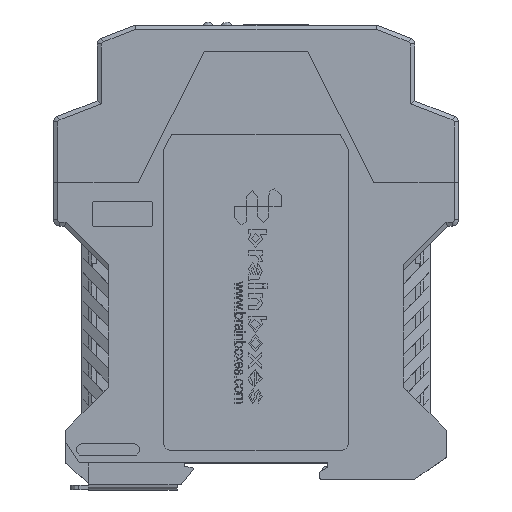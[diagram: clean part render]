
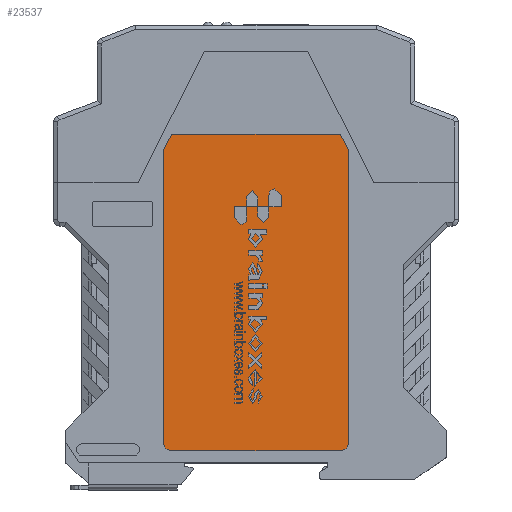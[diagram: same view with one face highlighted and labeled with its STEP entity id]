
A CAD part, top view. The second image highlights one B-rep face of the part: STEP entity #23537.
In plain terms, the highlighted planar face has unit normal (0, 0, 1).
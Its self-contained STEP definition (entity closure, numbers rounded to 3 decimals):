
#23537=ADVANCED_FACE('',(#53019),#53020,.T.);
#53019=FACE_OUTER_BOUND('',#92517,.T.);
#53020=PLANE('',#92518);
#92517=EDGE_LOOP('',(#161351,#161352,#161353,#161354,#161355,#161356,#161357,#161358));
#92518=AXIS2_PLACEMENT_3D('',#161359,#161360,#161361);
#161351=ORIENTED_EDGE('',*,*,#237632,.T.);
#161352=ORIENTED_EDGE('',*,*,#237634,.T.);
#161353=ORIENTED_EDGE('',*,*,#237635,.T.);
#161354=ORIENTED_EDGE('',*,*,#237625,.F.);
#161355=ORIENTED_EDGE('',*,*,#237636,.T.);
#161356=ORIENTED_EDGE('',*,*,#237621,.T.);
#161357=ORIENTED_EDGE('',*,*,#237637,.T.);
#161358=ORIENTED_EDGE('',*,*,#237629,.T.);
#161359=CARTESIAN_POINT('',(6.465,75.955,22.4));
#161360=DIRECTION('',(0.0,0.0,1.0));
#161361=DIRECTION('',(1.0,-0.0,0.0));
#237621=EDGE_CURVE('',#287875,#287877,#287879,.T.);
#237625=EDGE_CURVE('',#287883,#287881,#287885,.T.);
#237629=EDGE_CURVE('',#287887,#287889,#287891,.T.);
#237632=EDGE_CURVE('',#287889,#287893,#287895,.T.);
#237634=EDGE_CURVE('',#287893,#287897,#287898,.T.);
#237635=EDGE_CURVE('',#287897,#287881,#287899,.T.);
#237636=EDGE_CURVE('',#287883,#287875,#287900,.T.);
#237637=EDGE_CURVE('',#287877,#287887,#287901,.T.);
#287875=VERTEX_POINT('',#361904);
#287877=VERTEX_POINT('',#361907);
#287879=LINE('',#361910,#361911);
#287881=VERTEX_POINT('',#361913);
#287883=VERTEX_POINT('',#361916);
#287885=LINE('',#361919,#361920);
#287887=VERTEX_POINT('',#361922);
#287889=VERTEX_POINT('',#361925);
#287891=LINE('',#361928,#361929);
#287893=VERTEX_POINT('',#361931);
#287895=LINE('',#361934,#361935);
#287897=VERTEX_POINT('',#361937);
#287898=LINE('',#361938,#361939);
#287899=CIRCLE('',#361940,2.0);
#287900=CIRCLE('',#361941,2.0);
#287901=LINE('',#361942,#361943);
#361904=CARTESIAN_POINT('',(22.65,5.,22.4));
#361907=CARTESIAN_POINT('',(22.65,76.3,22.4));
#361910=CARTESIAN_POINT('',(22.65,-8.,22.4));
#361911=VECTOR('',#431789,1.0);
#361913=CARTESIAN_POINT('',(-20.65,3.,22.4));
#361916=CARTESIAN_POINT('',(20.65,3.,22.4));
#361919=CARTESIAN_POINT('',(0.,3.,22.4));
#361920=VECTOR('',#431792,1.0);
#361922=CARTESIAN_POINT('',(20.65,80.3,22.4));
#361925=CARTESIAN_POINT('',(-20.65,80.3,22.4));
#361928=CARTESIAN_POINT('',(0.,80.3,22.4));
#361929=VECTOR('',#431795,1.0);
#361931=CARTESIAN_POINT('',(-22.65,76.3,22.4));
#361934=CARTESIAN_POINT('',(-51.84,17.92,22.4));
#361935=VECTOR('',#431797,1.0);
#361937=CARTESIAN_POINT('',(-22.65,5.,22.4));
#361938=CARTESIAN_POINT('',(-22.65,-8.,22.4));
#361939=VECTOR('',#431798,1.0);
#361940=AXIS2_PLACEMENT_3D('',#431799,#431800,#431801);
#361941=AXIS2_PLACEMENT_3D('',#431802,#431803,#431804);
#361942=CARTESIAN_POINT('',(51.84,17.92,22.4));
#361943=VECTOR('',#431805,1.0);
#431789=DIRECTION('',(0.,1.0,0.0));
#431792=DIRECTION('',(-1.0,0.,0.0));
#431795=DIRECTION('',(-1.0,0.0,0.0));
#431797=DIRECTION('',(-0.447,-0.894,0.0));
#431798=DIRECTION('',(0.,-1.0,0.0));
#431799=CARTESIAN_POINT('',(-20.65,5.,22.4));
#431800=DIRECTION('',(0.0,0.0,1.0));
#431801=DIRECTION('',(1.0,0.0,-0.0));
#431802=CARTESIAN_POINT('',(20.65,5.,22.4));
#431803=DIRECTION('',(0.0,0.0,1.0));
#431804=DIRECTION('',(1.0,0.0,-0.0));
#431805=DIRECTION('',(-0.447,0.894,0.0));
